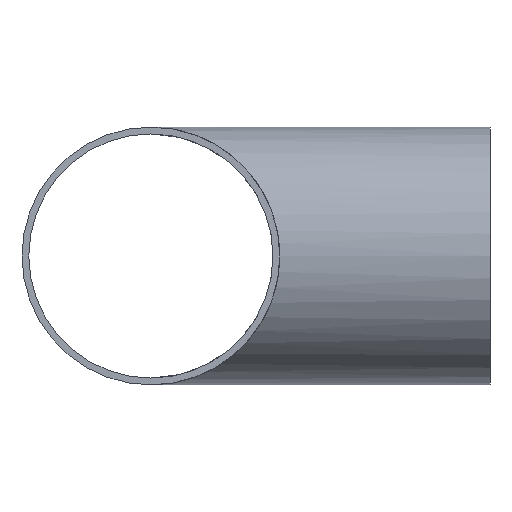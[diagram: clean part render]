
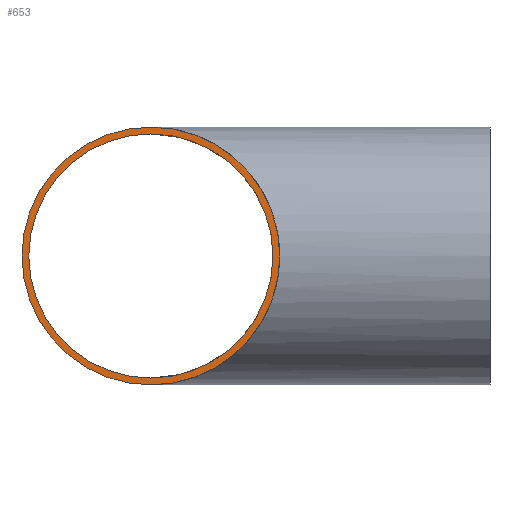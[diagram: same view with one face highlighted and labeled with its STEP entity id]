
A CAD part, front view. The second image highlights one B-rep face of the part: STEP entity #653.
In plain terms, the highlighted planar face has unit normal (0, -1, 0).
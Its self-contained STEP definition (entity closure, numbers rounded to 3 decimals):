
#115 = CYLINDRICAL_SURFACE('',#116,11.43);
#116 = AXIS2_PLACEMENT_3D('',#117,#118,#119);
#117 = CARTESIAN_POINT('',(0.,0.,0.));
#118 = DIRECTION('',(0.,1.,0.));
#119 = DIRECTION('',(1.,0.,0.));
#295 = CYLINDRICAL_SURFACE('',#296,12.065);
#296 = AXIS2_PLACEMENT_3D('',#297,#298,#299);
#297 = CARTESIAN_POINT('',(0.,0.,0.));
#298 = DIRECTION('',(0.,1.,0.));
#299 = DIRECTION('',(1.,0.,0.));
#505 = VERTEX_POINT('',#506);
#506 = CARTESIAN_POINT('',(11.43,0.,
    0.));
#527 = EDGE_CURVE('',#505,#505,#528,.T.);
#528 = SURFACE_CURVE('',#529,(#534,#541),.PCURVE_S1.);
#529 = CIRCLE('',#530,11.43);
#530 = AXIS2_PLACEMENT_3D('',#531,#532,#533);
#531 = CARTESIAN_POINT('',(0.,0.,0.));
#532 = DIRECTION('',(0.,1.,0.));
#533 = DIRECTION('',(1.,0.,0.));
#534 = PCURVE('',#115,#535);
#535 = DEFINITIONAL_REPRESENTATION('',(#536),#540);
#536 = LINE('',#537,#538);
#537 = CARTESIAN_POINT('',(0.,0.));
#538 = VECTOR('',#539,1.);
#539 = DIRECTION('',(1.,0.));
#540 = ( GEOMETRIC_REPRESENTATION_CONTEXT(2) 
PARAMETRIC_REPRESENTATION_CONTEXT() REPRESENTATION_CONTEXT('2D SPACE',''
  ) );
#541 = PCURVE('',#542,#547);
#542 = PLANE('',#543);
#543 = AXIS2_PLACEMENT_3D('',#544,#545,#546);
#544 = CARTESIAN_POINT('',(0.,0.,0.));
#545 = DIRECTION('',(0.,1.,0.));
#546 = DIRECTION('',(1.,0.,0.));
#547 = DEFINITIONAL_REPRESENTATION('',(#548),#552);
#548 = CIRCLE('',#549,11.43);
#549 = AXIS2_PLACEMENT_2D('',#550,#551);
#550 = CARTESIAN_POINT('',(0.,0.));
#551 = DIRECTION('',(1.,0.));
#552 = ( GEOMETRIC_REPRESENTATION_CONTEXT(2) 
PARAMETRIC_REPRESENTATION_CONTEXT() REPRESENTATION_CONTEXT('2D SPACE',''
  ) );
#609 = VERTEX_POINT('',#610);
#610 = CARTESIAN_POINT('',(12.065,0.,
    0.));
#631 = EDGE_CURVE('',#609,#609,#632,.T.);
#632 = SURFACE_CURVE('',#633,(#638,#645),.PCURVE_S1.);
#633 = CIRCLE('',#634,12.065);
#634 = AXIS2_PLACEMENT_3D('',#635,#636,#637);
#635 = CARTESIAN_POINT('',(0.,0.,0.));
#636 = DIRECTION('',(0.,1.,0.));
#637 = DIRECTION('',(1.,0.,0.));
#638 = PCURVE('',#295,#639);
#639 = DEFINITIONAL_REPRESENTATION('',(#640),#644);
#640 = LINE('',#641,#642);
#641 = CARTESIAN_POINT('',(0.,0.));
#642 = VECTOR('',#643,1.);
#643 = DIRECTION('',(1.,0.));
#644 = ( GEOMETRIC_REPRESENTATION_CONTEXT(2) 
PARAMETRIC_REPRESENTATION_CONTEXT() REPRESENTATION_CONTEXT('2D SPACE',''
  ) );
#645 = PCURVE('',#542,#646);
#646 = DEFINITIONAL_REPRESENTATION('',(#647),#651);
#647 = CIRCLE('',#648,12.065);
#648 = AXIS2_PLACEMENT_2D('',#649,#650);
#649 = CARTESIAN_POINT('',(0.,0.));
#650 = DIRECTION('',(1.,0.));
#651 = ( GEOMETRIC_REPRESENTATION_CONTEXT(2) 
PARAMETRIC_REPRESENTATION_CONTEXT() REPRESENTATION_CONTEXT('2D SPACE',''
  ) );
#653 = ADVANCED_FACE('',(#654,#657),#542,.F.);
#654 = FACE_BOUND('',#655,.F.);
#655 = EDGE_LOOP('',(#656));
#656 = ORIENTED_EDGE('',*,*,#527,.F.);
#657 = FACE_BOUND('',#658,.F.);
#658 = EDGE_LOOP('',(#659));
#659 = ORIENTED_EDGE('',*,*,#631,.T.);
